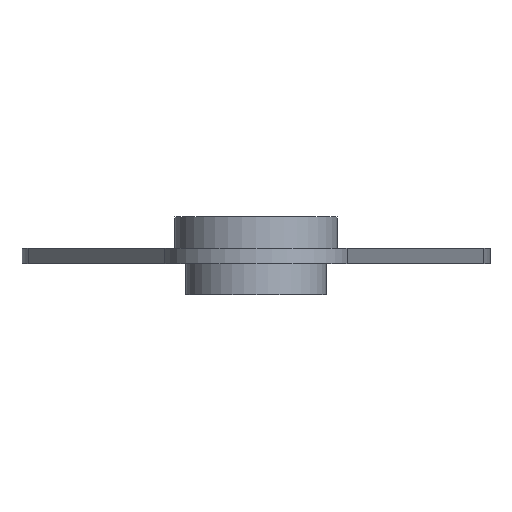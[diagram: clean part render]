
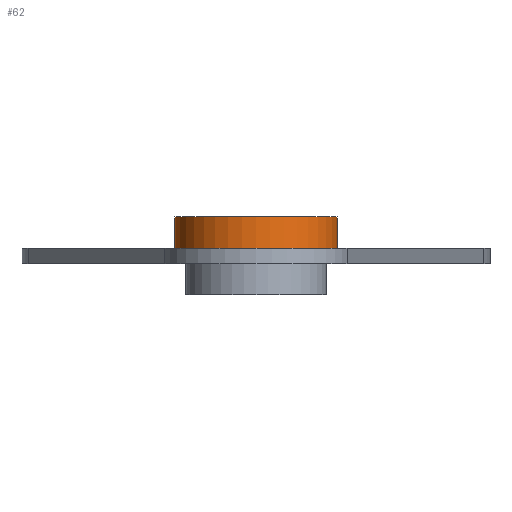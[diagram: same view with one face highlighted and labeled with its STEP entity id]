
A CAD part, front view. The second image highlights one B-rep face of the part: STEP entity #62.
In plain terms, the highlighted cylindrical face has radius 26 mm (diameter 52 mm), a partial arc.
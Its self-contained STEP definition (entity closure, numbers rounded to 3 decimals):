
#62 = ADVANCED_FACE ( 'NONE', ( #1321 ), #1322, .T. ) ;
#111 = EDGE_CURVE ( 'NONE', #642, #643, #1068, .T. ) ;
#114 = EDGE_CURVE ( 'NONE', #641, #644, #1059, .T. ) ;
#147 = EDGE_CURVE ( 'NONE', #642, #641, #752, .T. ) ;
#168 = EDGE_CURVE ( 'NONE', #643, #644, #735, .T. ) ;
#193 = DIRECTION ( 'NONE',  ( 1., 0., 0. ) ) ;
#194 = DIRECTION ( 'NONE',  ( 0., 0., 1. ) ) ;
#195 = CARTESIAN_POINT ( 'NONE',  ( 0., -200., 16.665 ) ) ;
#461 = ORIENTED_EDGE ( 'NONE', *, *, #168, .F. ) ;
#466 = ORIENTED_EDGE ( 'NONE', *, *, #111, .F. ) ;
#467 = ORIENTED_EDGE ( 'NONE', *, *, #147, .T. ) ;
#470 = ORIENTED_EDGE ( 'NONE', *, *, #114, .T. ) ;
#595 = EDGE_LOOP ( 'NONE', ( #466, #467, #470, #461 ) ) ;
#641 = VERTEX_POINT ( 'NONE', #842 ) ;
#642 = VERTEX_POINT ( 'NONE', #841 ) ;
#643 = VERTEX_POINT ( 'NONE', #840 ) ;
#644 = VERTEX_POINT ( 'NONE', #839 ) ;
#735 = CIRCLE ( 'NONE', #1151, 26. ) ;
#752 = CIRCLE ( 'NONE', #1182, 26. ) ;
#839 = CARTESIAN_POINT ( 'NONE',  ( 26., -200., 15. ) ) ;
#840 = CARTESIAN_POINT ( 'NONE',  ( -26., -200., 15. ) ) ;
#841 = CARTESIAN_POINT ( 'NONE',  ( -26., -200., 5. ) ) ;
#842 = CARTESIAN_POINT ( 'NONE',  ( 26., -200., 5. ) ) ;
#896 = DIRECTION ( 'NONE',  ( 1., 0., 0. ) ) ;
#897 = DIRECTION ( 'NONE',  ( 0., 0., 1. ) ) ;
#898 = CARTESIAN_POINT ( 'NONE',  ( 0., -200., 15. ) ) ;
#959 = DIRECTION ( 'NONE',  ( 1., 0., 0. ) ) ;
#960 = DIRECTION ( 'NONE',  ( 0., 0., 1. ) ) ;
#961 = CARTESIAN_POINT ( 'NONE',  ( 0., -200., 5. ) ) ;
#1057 = DIRECTION ( 'NONE',  ( 0., 0., 1. ) ) ;
#1058 = CARTESIAN_POINT ( 'NONE',  ( 26., -200., 16.665 ) ) ;
#1059 = LINE ( 'NONE', #1058, #1217 ) ;
#1066 = DIRECTION ( 'NONE',  ( 0., 0., 1. ) ) ;
#1067 = CARTESIAN_POINT ( 'NONE',  ( -26., -200., 16.665 ) ) ;
#1068 = LINE ( 'NONE', #1067, #1218 ) ;
#1151 = AXIS2_PLACEMENT_3D ( 'NONE', #898, #897, #896 ) ;
#1182 = AXIS2_PLACEMENT_3D ( 'NONE', #961, #960, #959 ) ;
#1217 = VECTOR ( 'NONE', #1057, 1000. ) ;
#1218 = VECTOR ( 'NONE', #1066, 1000. ) ;
#1317 = AXIS2_PLACEMENT_3D ( 'NONE', #195, #194, #193 ) ;
#1321 = FACE_OUTER_BOUND ( 'NONE', #595, .T. ) ;
#1322 = CYLINDRICAL_SURFACE ( 'NONE', #1317, 26. ) ;
